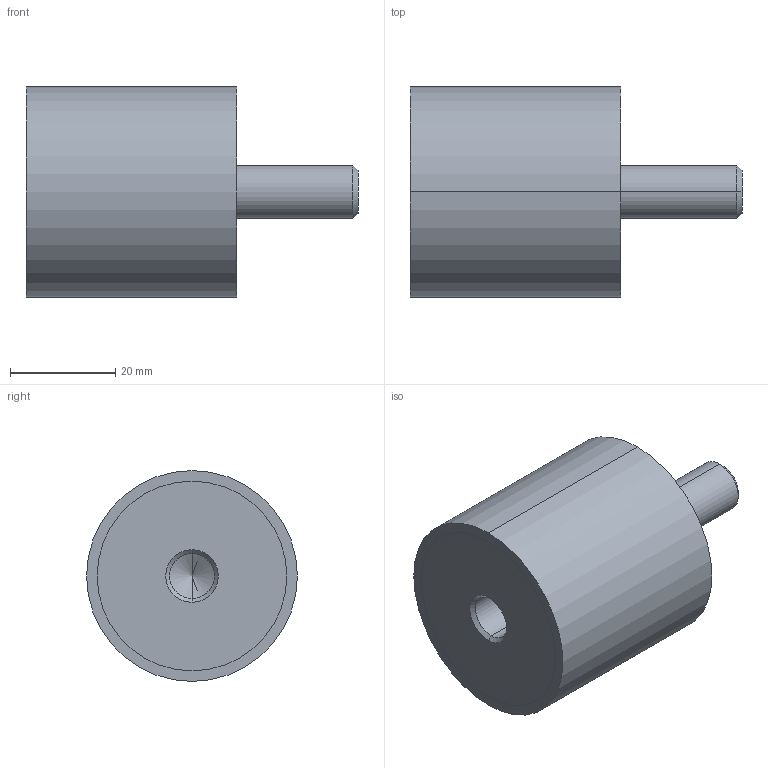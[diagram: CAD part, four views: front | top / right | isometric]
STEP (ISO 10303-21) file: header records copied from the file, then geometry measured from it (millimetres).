
FILE_DESCRIPTION (( 'STEP AP214' ), '1' );
FILE_NAME ('351-40-40-M10-ES-40.step', '2025-07-23T09:58:46', ( '' ), ( '' ), 'SwSTEP 2.0', 'SolidWorks 2022', '' );
FILE_SCHEMA (( 'AUTOMOTIVE_DESIGN' ));
Length unit declared in the file: millimetre
Products named in the file (1): 351-40-40-M10-ES-40
Bounding box: 63 x 40 x 40 mm (x, y, z)
Volume: 51465.3 mm3; surface area: 8489 mm2
Topology: 1 solids, 1 shells, 24 faces, 48 edges, 29 vertices
Faces by surface type: cylinder 12, cone 6, plane 6
Entity records: 740 total; most frequent: DIRECTION 124, CARTESIAN_POINT 100, ORIENTED_EDGE 92, AXIS2_PLACEMENT_3D 53, EDGE_CURVE 46, EDGE_LOOP 29, VERTEX_POINT 29, CIRCLE 28
